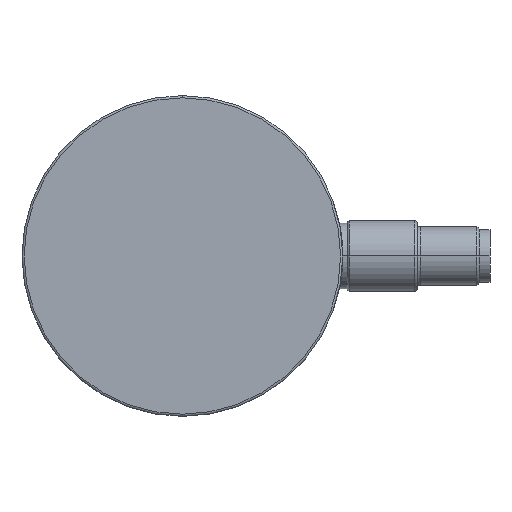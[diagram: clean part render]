
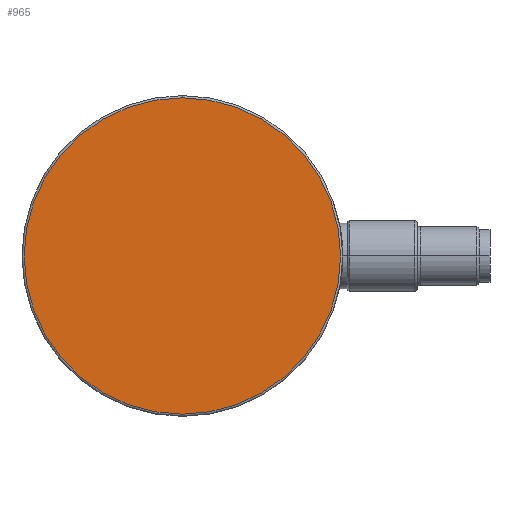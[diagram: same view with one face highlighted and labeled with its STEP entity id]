
A CAD part, left-side view. The second image highlights one B-rep face of the part: STEP entity #965.
In plain terms, the highlighted planar face has unit normal (-1, 0, 0).
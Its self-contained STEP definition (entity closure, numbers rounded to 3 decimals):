
#888 = EDGE_LOOP ( 'NONE', ( #889, #890 ) ) ;
#889 = ORIENTED_EDGE ( 'NONE', *, *, #900, .T. ) ;
#890 = ORIENTED_EDGE ( 'NONE', *, *, #891, .T. ) ;
#891 = EDGE_CURVE ( 'NONE', #898, #901, #4237, .T. ) ;
#898 = VERTEX_POINT ( 'NONE', #4254 ) ;
#900 = EDGE_CURVE ( 'NONE', #901, #898, #4253, .T. ) ;
#901 = VERTEX_POINT ( 'NONE', #4248 ) ;
#965 = ADVANCED_FACE ( 'NONE', ( #4484 ), #4468, .T. ) ;
#4234 = DIRECTION ( 'NONE',  ( 0., 0., -1. ) ) ;
#4235 = DIRECTION ( 'NONE',  ( -1., 0., 0. ) ) ;
#4236 = AXIS2_PLACEMENT_3D ( 'NONE', #4242, #4235, #4234 ) ;
#4237 = CIRCLE ( 'NONE', #4236, 18. ) ;
#4242 = CARTESIAN_POINT ( 'NONE',  ( -27.423, -3.55, 0. ) ) ;
#4248 = CARTESIAN_POINT ( 'NONE',  ( -27.423, -3.55, -18. ) ) ;
#4249 = DIRECTION ( 'NONE',  ( 0., 0., -1. ) ) ;
#4250 = DIRECTION ( 'NONE',  ( -1., 0., 0. ) ) ;
#4251 = CARTESIAN_POINT ( 'NONE',  ( -27.423, -3.55, 0. ) ) ;
#4252 = AXIS2_PLACEMENT_3D ( 'NONE', #4251, #4250, #4249 ) ;
#4253 = CIRCLE ( 'NONE', #4252, 18. ) ;
#4254 = CARTESIAN_POINT ( 'NONE',  ( -27.423, -3.55, 18. ) ) ;
#4463 = DIRECTION ( 'NONE',  ( 0., 0., -1. ) ) ;
#4464 = DIRECTION ( 'NONE',  ( -1., 0., 0. ) ) ;
#4465 = CARTESIAN_POINT ( 'NONE',  ( -27.423, -3.55, 0. ) ) ;
#4466 = AXIS2_PLACEMENT_3D ( 'NONE', #4465, #4464, #4463 ) ;
#4468 = PLANE ( 'NONE',  #4466 ) ;
#4484 = FACE_OUTER_BOUND ( 'NONE', #888, .T. ) ;
